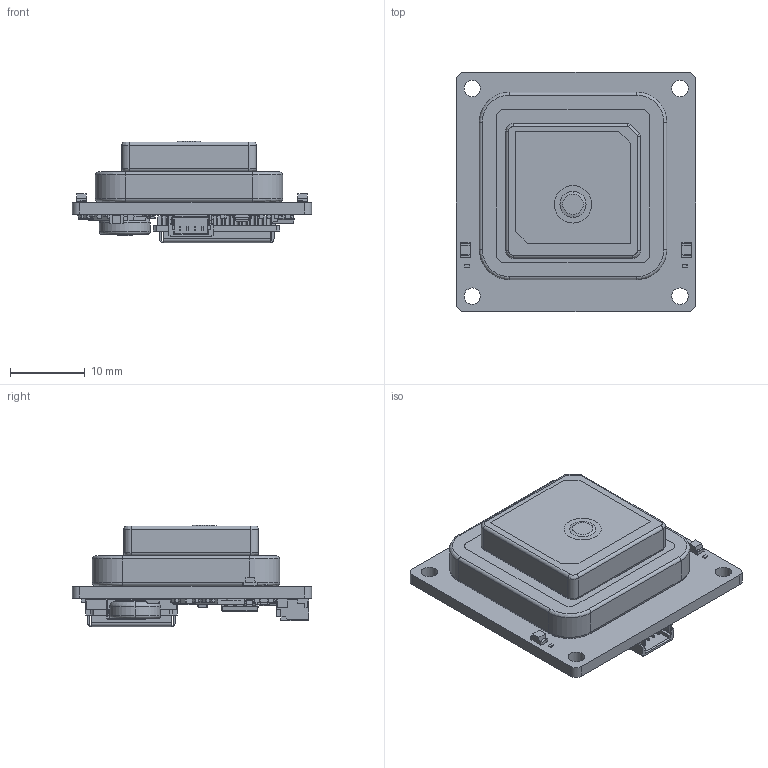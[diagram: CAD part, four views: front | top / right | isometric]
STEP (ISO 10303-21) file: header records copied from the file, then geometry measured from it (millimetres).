
FILE_DESCRIPTION(('KiCad electronic assembly'),'2;1');
FILE_NAME('Orbit-NANO.step','2025-05-11T20:49:32',('Pcbnew'),('Kicad'), 'Open CASCADE STEP processor 7.8','KiCad to STEP converter','Unknown' );
FILE_SCHEMA(('AUTOMOTIVE_DESIGN { 1 0 10303 214 1 1 1 1 }'));
Length unit declared in the file: millimetre
Products named in the file (42): Orbit-NANO 1; LED_0805_2012Metric; LED_0201_0603Metric; ANT-GNCP-TH258L15; C_0603_1608Metric; PG-DSO-8-80_Z8B00008554_V14_3D; Product; C_0402_1005Metric; QFN-32-1EP_5x5mm_P0.5mm_EP3.45x3.45mm; QFN-32-1EP_5x5mm_Pitch0.5mm; PMEG6010CEJ,115; SOT323F step; SG-210STF_24.0000ML0; X1G0041710033 SG-210STF 25 MHZ L; SM04B-SRSS-TB_LF__SN_; SM04B-SRSS-TB(LF)(SN); IIS2MDCTR; LIS2DTW12TR; C_0201_0603Metric; PESD0402-140; SOT-23; SOT_23; MS621FE-FL11E; R_0201_0603Metric; NEO-F9P-15B; MPZ1608S300ATAH0; ASSEMBLY; TSOT-23-5_RIT; part; C_0805_2012Metric; Orbit-NANO_PCB
Assembly tree (62 placements, depth 3):
  Orbit-NANO 1
    LED_0805_2012Metric  x2
      LED_0805_2012Metric
    LED_0201_0603Metric  x7
      LED_0201_0603Metric
    ANT-GNCP-TH258L15
      ANT-GNCP-TH258L15
    C_0603_1608Metric
      C_0603_1608Metric
    PG-DSO-8-80_Z8B00008554_V14_3D
      Product
    C_0402_1005Metric  x15
      C_0402_1005Metric
    QFN-32-1EP_5x5mm_P0.5mm_EP3.45x3.45mm
      QFN-32-1EP_5x5mm_Pitch0.5mm
    PMEG6010CEJ,115
      SOT323F step
    SG-210STF_24.0000ML0
      X1G0041710033 SG-210STF 25 MHZ L
    SM04B-SRSS-TB_LF__SN_
      SM04B-SRSS-TB(LF)(SN)
    IIS2MDCTR
      LIS2DTW12TR
    C_0201_0603Metric
      C_0201_0603Metric
    PESD0402-140
      PESD0402-140
    SOT-23
      SOT_23
    MS621FE-FL11E
      MS621FE-FL11E
    R_0201_0603Metric
      R_0201_0603Metric
    NEO-F9P-15B
      NEO-F9P-15B
    MPZ1608S300ATAH0
      ASSEMBLY
    TSOT-23-5_RIT
      part
    C_0805_2012Metric
      C_0805_2012Metric
    Orbit-NANO_PCB
Bounding box: 32 x 32 x 13.56 mm (x, y, z)
Volume: 6001.5 mm3; surface area: 7873.8 mm2
Topology: 109 solids, 109 shells, 2663 faces, 6832 edges, 4444 vertices
Faces by surface type: plane 1855, cylinder 705, bspline 57, torus 18, sphere 16, cone 12
Full cylindrical faces by diameter (mm): 0.09 x1, 0.11 x1, 0.227 x1, 0.5 x1, 0.801 x2, 0.95 x1, 2.2 x4
Entity records: 72028 total; most frequent: CARTESIAN_POINT 12199, ORIENTED_EDGE 10698, DIRECTION 10549, EDGE_CURVE 5349, LINE 4113, VECTOR 4113, VERTEX_POINT 3482, AXIS2_PLACEMENT_3D 3218
